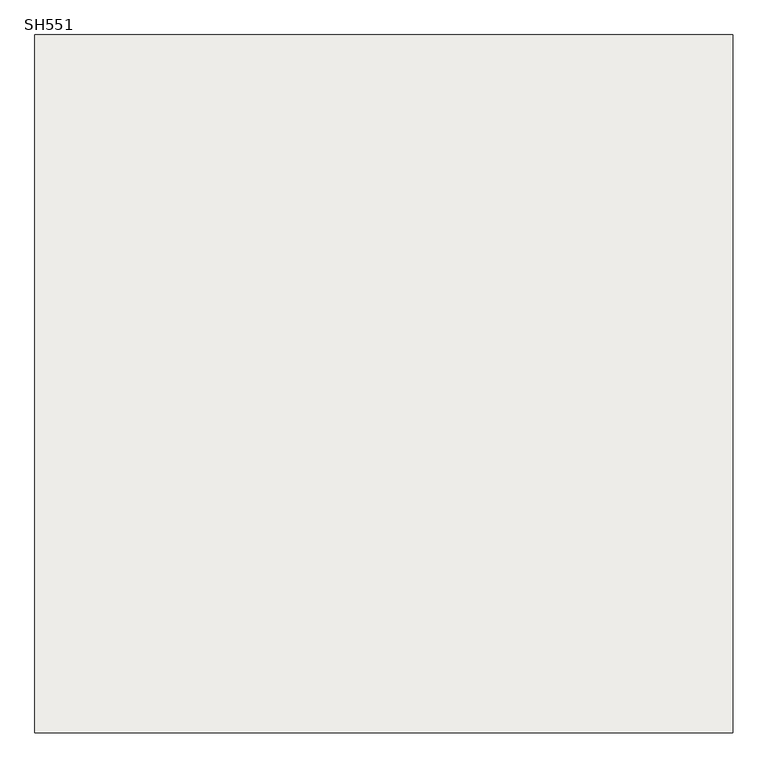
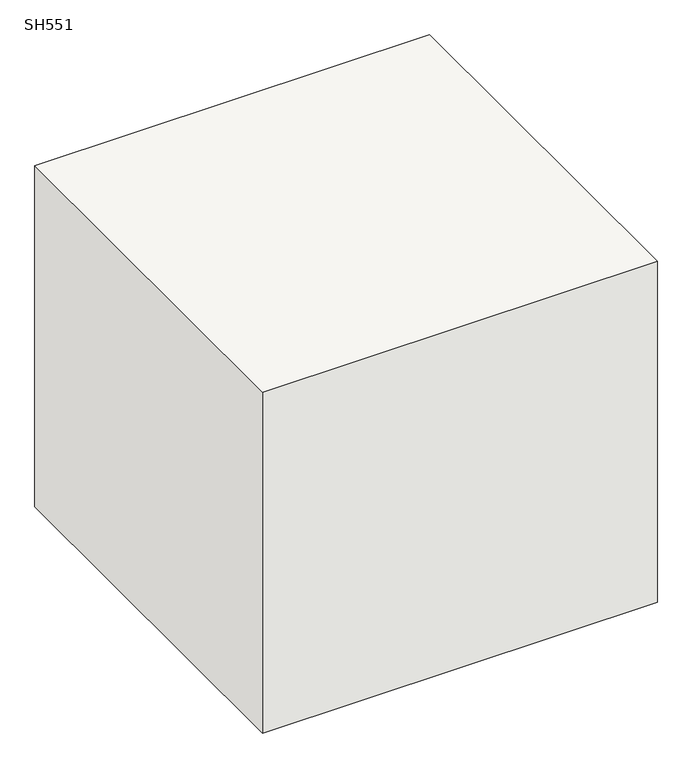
"""IFC4 building model written with IfcOpenShell, lengths in millimetres: slab geometry, 柱形_SH : SH551."""

from ifc_helpers import new_model, si_unit, frame, origin, place, context, project, spatial, polyline, outline, extrude, source, transform, mapped, element, save


def sh551_472f291d(model_context):
    return source(origin(), model_context, "Body", "SweptSolid", [
        extrude(outline(polyline([(520.0, 520.0), (520.0, -520.0), (-520.0, -520.0), (-520.0, 520.0), (520.0, 520.0)])), frame((0.0, 0.0, -950.0), z_axis=(0.0, 0.0, 1.0), x_axis=(1.0, 0.0, 0.0)), (0.0, 0.0, 1.0), 950.0),
    ])


if __name__ == "__main__":
    model = new_model("IFC4")
    model_context = context("Model", 3, world=origin())
    ifc_project = project(units=[si_unit("LENGTHUNIT", "METRE", prefix="MILLI")], contexts=[model_context])
    site = spatial("IfcSite", under=ifc_project)
    building = spatial("IfcBuilding", under=site)
    placement = place(None, origin())
    sh551_shape = sh551_472f291d(model_context)
    element("IfcSlab", 1, ObjectType="柱形_SH : SH551", at=placement, inside=building, context=model_context, shape_type="MappedRepresentation", body=[
        mapped(sh551_shape, transform((0.0, 0.0, 0.0), x_axis=(1.0, 0.0, 0.0), y_axis=(0.0, 1.0, 0.0), z_axis=(0.0, 0.0, 1.0))),
    ])
    save(model, "model.ifc")
